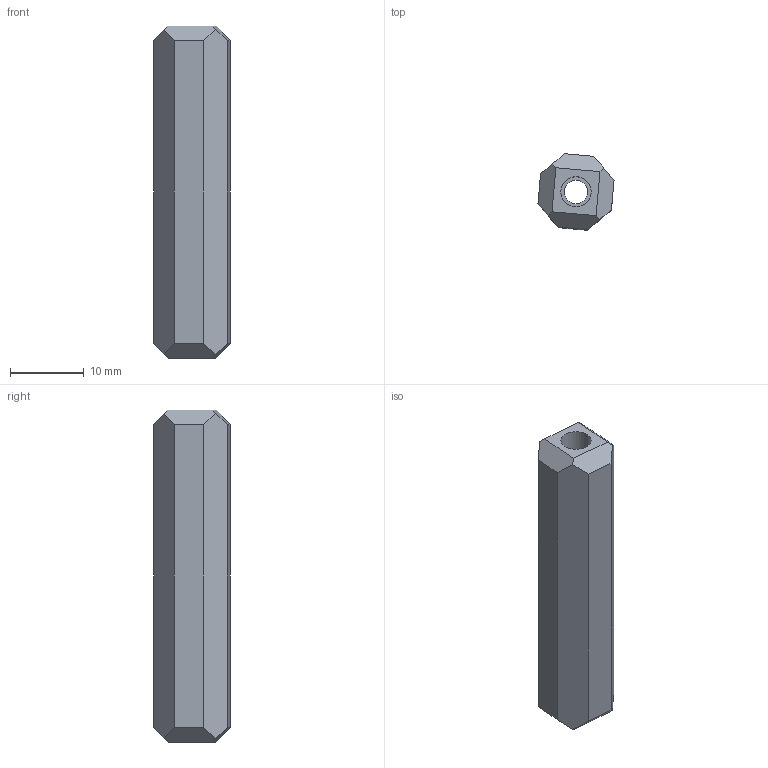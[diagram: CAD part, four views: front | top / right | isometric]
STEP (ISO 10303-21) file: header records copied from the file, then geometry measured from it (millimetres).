
FILE_DESCRIPTION(/* description */ (''),/* implementation_level */ '2;1');
FILE_NAME(/* name */ '4-41-2 Tie rod.step',/* time_stamp */ '2025-05-10T22:20:30+02:00',/* author */ (''),/* organization */ (''),/* preprocessor_version */ 'ST-DEVELOPER v20.1',/* originating_system */ 'Autodesk Translation Framework v14.4.0.0',/* authorisation */ '');
FILE_SCHEMA (('AUTOMOTIVE_DESIGN { 1 0 10303 214 3 1 1 }'));
Length unit declared in the file: millimetre
Products named in the file (1): Control arm
Bounding box: 10.31 x 10.31 x 45 mm (x, y, z)
Volume: 3140.2 mm3; surface area: 2072.2 mm2
Topology: 1 solids, 1 shells, 23 faces, 57 edges, 38 vertices
Faces by surface type: plane 20, cylinder 3
Full cylindrical faces by diameter (mm): 3.2 x1, 4.1 x2
Entity records: 721 total; most frequent: CARTESIAN_POINT 119, ORIENTED_EDGE 114, DIRECTION 111, EDGE_CURVE 57, LINE 51, VECTOR 51, VERTEX_POINT 38, AXIS2_PLACEMENT_3D 30
